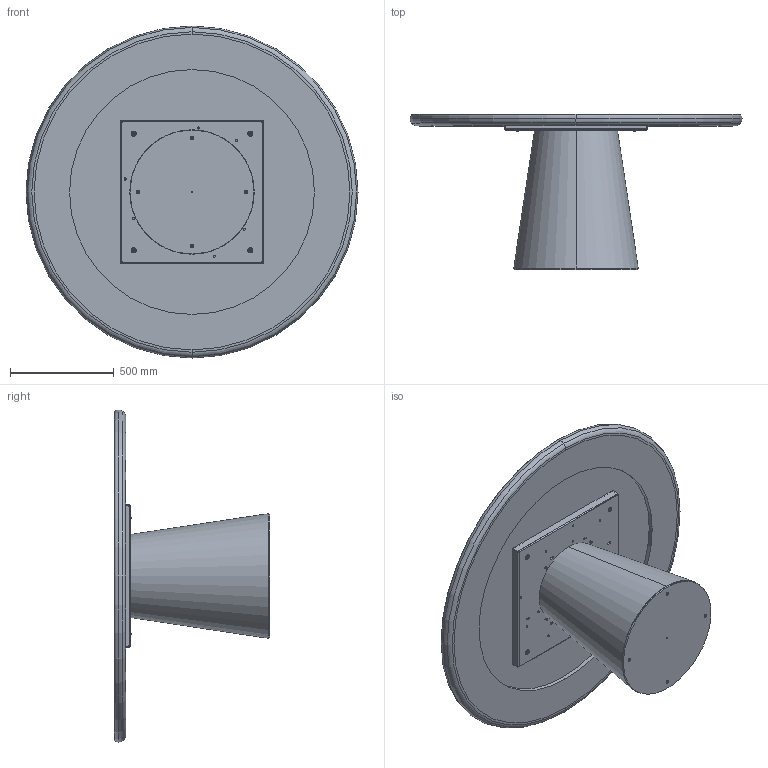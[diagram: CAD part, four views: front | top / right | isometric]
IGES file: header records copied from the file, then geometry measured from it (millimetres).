
Start section: SolidWorks IGES file using analytic representation for surfaces
Global section: file name: Y:\eforma\TECNICO\SOLIDWORKS\E-FORMA\1-TAVOLI\TEO\08 modelli 3D web\TO08K_Teo_d.160_King.IGS; native system: SolidWorks 2022; preprocessor: SolidWorks 2022; author: eforma.tech; date: 240802.112124; units: millimetre
Bounding box: 1600 x 749.19 x 1600 mm (x, y, z)
Volume: 118496491.1 mm3; surface area: 12621926.3 mm2
Topology: 21 solids, 21 shells, 822 faces, 2044 edges, 1256 vertices
Faces by surface type: revolution 448, plane 374
